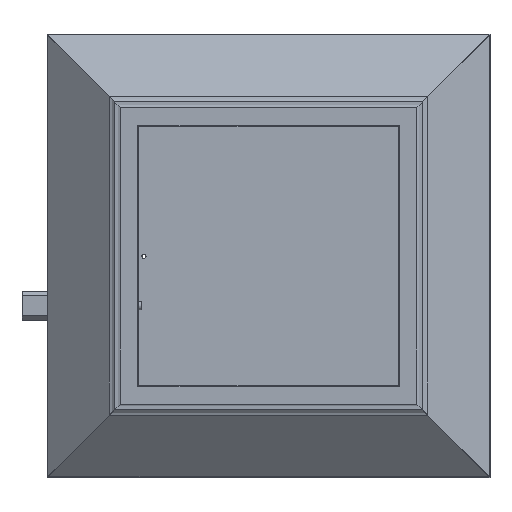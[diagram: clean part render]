
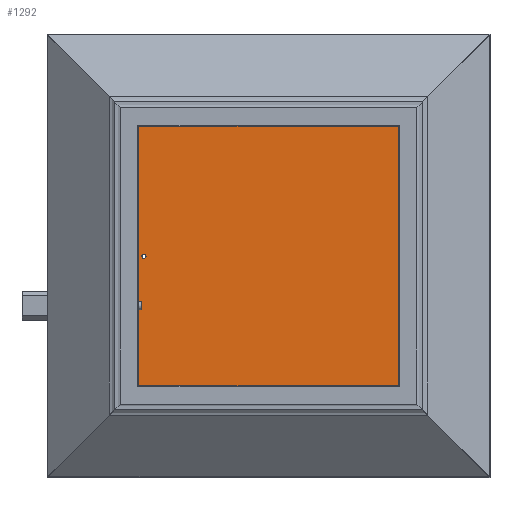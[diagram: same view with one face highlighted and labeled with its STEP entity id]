
A CAD part, top view. The second image highlights one B-rep face of the part: STEP entity #1292.
In plain terms, the highlighted planar face has unit normal (0, 0, 1) by its records, which use the part's own axes.
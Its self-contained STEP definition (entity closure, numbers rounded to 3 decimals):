
#37=CIRCLE('',#1385,5.);
#60=FACE_BOUND('',#200,.T.);
#105=FACE_OUTER_BOUND('',#199,.T.);
#199=EDGE_LOOP('',(#946,#947,#948,#949,#950,#951,#952,#953));
#200=EDGE_LOOP('',(#954));
#306=LINE('',#1991,#457);
#307=LINE('',#1993,#458);
#308=LINE('',#1995,#459);
#309=LINE('',#1997,#460);
#310=LINE('',#1999,#461);
#311=LINE('',#2001,#462);
#312=LINE('',#2003,#463);
#313=LINE('',#2004,#464);
#457=VECTOR('',#1588,10.);
#458=VECTOR('',#1589,10.);
#459=VECTOR('',#1590,10.);
#460=VECTOR('',#1591,10.);
#461=VECTOR('',#1592,10.);
#462=VECTOR('',#1593,10.);
#463=VECTOR('',#1594,10.);
#464=VECTOR('',#1595,10.);
#604=VERTEX_POINT('',#1964);
#614=VERTEX_POINT('',#1989);
#615=VERTEX_POINT('',#1990);
#616=VERTEX_POINT('',#1992);
#617=VERTEX_POINT('',#1994);
#618=VERTEX_POINT('',#1996);
#619=VERTEX_POINT('',#1998);
#620=VERTEX_POINT('',#2000);
#621=VERTEX_POINT('',#2002);
#728=EDGE_CURVE('',#604,#604,#37,.T.);
#738=EDGE_CURVE('',#614,#615,#306,.F.);
#739=EDGE_CURVE('',#616,#615,#307,.F.);
#740=EDGE_CURVE('',#617,#616,#308,.F.);
#741=EDGE_CURVE('',#618,#617,#309,.F.);
#742=EDGE_CURVE('',#618,#619,#310,.F.);
#743=EDGE_CURVE('',#620,#619,#311,.F.);
#744=EDGE_CURVE('',#621,#620,#312,.T.);
#745=EDGE_CURVE('',#614,#621,#313,.F.);
#946=ORIENTED_EDGE('',*,*,#738,.T.);
#947=ORIENTED_EDGE('',*,*,#739,.F.);
#948=ORIENTED_EDGE('',*,*,#740,.F.);
#949=ORIENTED_EDGE('',*,*,#741,.F.);
#950=ORIENTED_EDGE('',*,*,#742,.T.);
#951=ORIENTED_EDGE('',*,*,#743,.F.);
#952=ORIENTED_EDGE('',*,*,#744,.F.);
#953=ORIENTED_EDGE('',*,*,#745,.F.);
#954=ORIENTED_EDGE('',*,*,#728,.T.);
#1211=PLANE('',#1399);
#1292=ADVANCED_FACE('',(#105,#60),#1211,.T.);
#1385=AXIS2_PLACEMENT_3D('',#1965,#1558,#1559);
#1399=AXIS2_PLACEMENT_3D('',#1988,#1586,#1587);
#1558=DIRECTION('center_axis',(0.,0.,-1.));
#1559=DIRECTION('ref_axis',(1.,0.,0.));
#1586=DIRECTION('center_axis',(0.,0.,1.));
#1587=DIRECTION('ref_axis',(1.,0.,0.));
#1588=DIRECTION('',(-0.707,0.707,0.));
#1589=DIRECTION('',(1.,0.,0.));
#1590=DIRECTION('',(0.707,0.707,0.));
#1591=DIRECTION('',(0.,1.,0.));
#1592=DIRECTION('',(0.707,-0.707,0.));
#1593=DIRECTION('',(-1.,0.,0.));
#1594=DIRECTION('',(0.707,0.707,0.));
#1595=DIRECTION('',(0.,-1.,0.));
#1964=CARTESIAN_POINT('',(-307.5,0.,38.));
#1965=CARTESIAN_POINT('Origin',(-302.5,0.,38.));
#1988=CARTESIAN_POINT('Origin',(0.,0.,38.));
#1989=CARTESIAN_POINT('',(-371.146,-264.215,38.));
#1990=CARTESIAN_POINT('',(-264.215,-371.146,38.));
#1991=CARTESIAN_POINT('',(-317.68,-317.68,38.));
#1992=CARTESIAN_POINT('',(264.215,-371.146,38.));
#1993=CARTESIAN_POINT('',(268.75,-371.146,38.));
#1994=CARTESIAN_POINT('',(371.146,-264.215,38.));
#1995=CARTESIAN_POINT('',(317.68,-317.68,38.));
#1996=CARTESIAN_POINT('',(371.146,264.215,38.));
#1997=CARTESIAN_POINT('',(371.146,268.75,38.));
#1998=CARTESIAN_POINT('',(264.215,371.146,38.));
#1999=CARTESIAN_POINT('',(317.68,317.68,38.));
#2000=CARTESIAN_POINT('',(-264.215,371.146,38.));
#2001=CARTESIAN_POINT('',(-268.75,371.146,38.));
#2002=CARTESIAN_POINT('',(-371.146,264.215,38.));
#2003=CARTESIAN_POINT('',(-317.68,317.68,38.));
#2004=CARTESIAN_POINT('',(-371.146,-268.75,38.));
